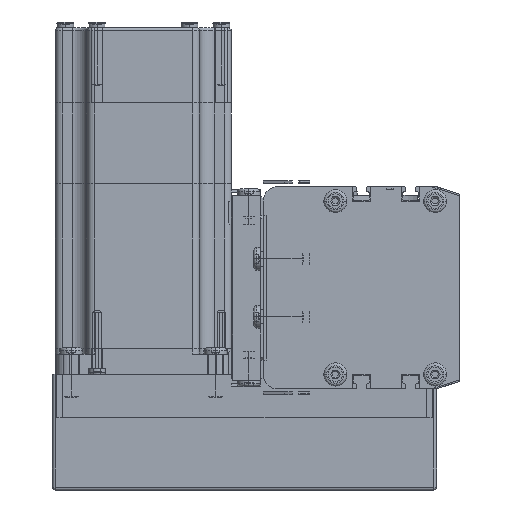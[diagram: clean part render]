
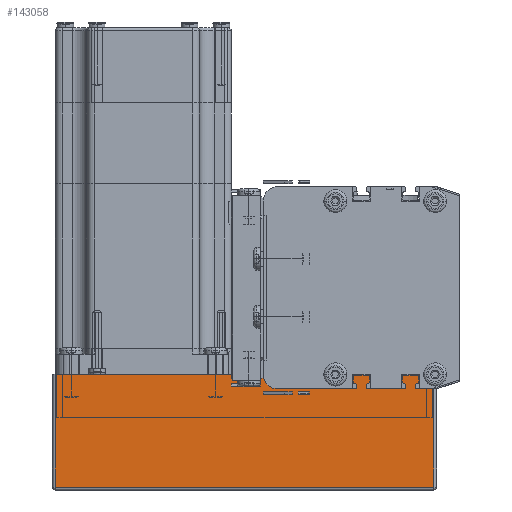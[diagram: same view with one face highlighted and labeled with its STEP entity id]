
A CAD part, left-side view. The second image highlights one B-rep face of the part: STEP entity #143058.
In plain terms, the highlighted planar face has unit normal (-1, 0, 0) as drawn and (0, 1, 0) by its records, which use the part's own axes.
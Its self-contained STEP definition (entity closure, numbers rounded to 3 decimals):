
#133590 = CARTESIAN_POINT ( 'NONE',  ( 1., 62., 0. ) ) ;
#133704 = CARTESIAN_POINT ( 'NONE',  ( 0., 62., 0. ) ) ;
#133705 = LINE ( 'NONE', #133704, #133813 ) ;
#133807 = CARTESIAN_POINT ( 'NONE',  ( 132., 62., 0. ) ) ;
#133812 = DIRECTION ( 'NONE',  ( -1., 0., 0. ) ) ;
#133813 = VECTOR ( 'NONE', #133812, 1000. ) ;
#135419 = LINE ( 'NONE', #135565, #135563 ) ;
#135516 = DIRECTION ( 'NONE',  ( 0., 0., -1. ) ) ;
#135518 = DIRECTION ( 'NONE',  ( 0., -1., 0. ) ) ;
#135522 = PLANE ( 'NONE',  #135572 ) ;
#135530 = FACE_OUTER_BOUND ( 'NONE', #143250, .T. ) ;
#135533 = CARTESIAN_POINT ( 'NONE',  ( 1., 62., 39. ) ) ;
#135534 = DIRECTION ( 'NONE',  ( 0., 0., 1. ) ) ;
#135563 = VECTOR ( 'NONE', #135534, 1000. ) ;
#135565 = CARTESIAN_POINT ( 'NONE',  ( 1., 62., 40. ) ) ;
#135572 = AXIS2_PLACEMENT_3D ( 'NONE', #135657, #135518, #135516 ) ;
#135576 = CARTESIAN_POINT ( 'NONE',  ( 132., 62., 39. ) ) ;
#135657 = CARTESIAN_POINT ( 'NONE',  ( 0., 62., 40. ) ) ;
#136435 = DIRECTION ( 'NONE',  ( 0., 0., -1. ) ) ;
#136436 = CARTESIAN_POINT ( 'NONE',  ( 132., 62., 40. ) ) ;
#136497 = VECTOR ( 'NONE', #136435, 1000. ) ;
#136531 = LINE ( 'NONE', #136436, #136497 ) ;
#136650 = DIRECTION ( 'NONE',  ( 1., 0., 0. ) ) ;
#136653 = VECTOR ( 'NONE', #136650, 1000. ) ;
#136655 = CARTESIAN_POINT ( 'NONE',  ( 0., 62., 39. ) ) ;
#136670 = LINE ( 'NONE', #136655, #136653 ) ;
#142699 = VERTEX_POINT ( 'NONE', #133590 ) ;
#142730 = EDGE_CURVE ( 'NONE', #142737, #142699, #133705, .T. ) ;
#142737 = VERTEX_POINT ( 'NONE', #133807 ) ;
#143032 = EDGE_CURVE ( 'NONE', #142699, #143101, #135419, .T. ) ;
#143035 = VERTEX_POINT ( 'NONE', #135576 ) ;
#143058 = ADVANCED_FACE ( 'NONE', ( #135530 ), #135522, .F. ) ;
#143060 = ORIENTED_EDGE ( 'NONE', *, *, #143394, .T. ) ;
#143101 = VERTEX_POINT ( 'NONE', #135533 ) ;
#143182 = ORIENTED_EDGE ( 'NONE', *, *, #143032, .T. ) ;
#143250 = EDGE_LOOP ( 'NONE', ( #143386, #143060, #143416, #143182 ) ) ;
#143386 = ORIENTED_EDGE ( 'NONE', *, *, #143404, .T. ) ;
#143394 = EDGE_CURVE ( 'NONE', #143035, #142737, #136531, .T. ) ;
#143404 = EDGE_CURVE ( 'NONE', #143101, #143035, #136670, .T. ) ;
#143416 = ORIENTED_EDGE ( 'NONE', *, *, #142730, .T. ) ;
